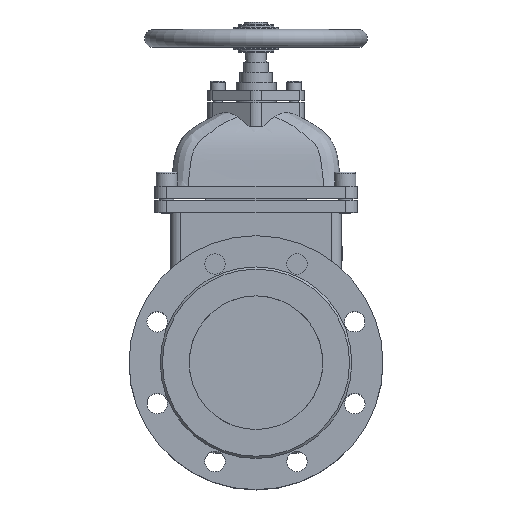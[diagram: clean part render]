
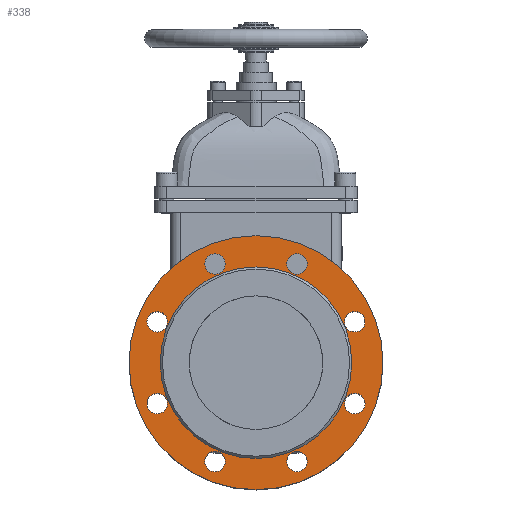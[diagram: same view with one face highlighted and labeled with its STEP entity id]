
A CAD part, top view. The second image highlights one B-rep face of the part: STEP entity #338.
In plain terms, the highlighted planar face has unit normal (0, 0, 1).
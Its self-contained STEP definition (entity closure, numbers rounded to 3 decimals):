
#338=ADVANCED_FACE('',(#3567,#3569,#3571,#3573,#3575,#3577,#3579,#3581,#3583,#3585),
#3587,.T.);
#3567=FACE_BOUND('',#3568,.T.);
#3568=EDGE_LOOP('',(#9762));
#3569=FACE_BOUND('',#3570,.T.);
#3570=EDGE_LOOP('',(#9763));
#3571=FACE_BOUND('',#3572,.T.);
#3572=EDGE_LOOP('',(#9764));
#3573=FACE_BOUND('',#3574,.T.);
#3574=EDGE_LOOP('',(#9765));
#3575=FACE_BOUND('',#3576,.T.);
#3576=EDGE_LOOP('',(#9766));
#3577=FACE_BOUND('',#3578,.T.);
#3578=EDGE_LOOP('',(#9767));
#3579=FACE_BOUND('',#3580,.T.);
#3580=EDGE_LOOP('',(#9768));
#3581=FACE_BOUND('',#3582,.T.);
#3582=EDGE_LOOP('',(#9769));
#3583=FACE_BOUND('',#3584,.T.);
#3584=EDGE_LOOP('',(#9770));
#3585=FACE_BOUND('',#3586,.T.);
#3586=EDGE_LOOP('',(#9771));
#3587=PLANE('',#3588);
#3588=AXIS2_PLACEMENT_3D('',#3589,#3590,#3591);
#3589=CARTESIAN_POINT('',(0.,0.,102.5));
#3590=DIRECTION('',(0.,0.,1.));
#3591=DIRECTION('',(0.,1.,0.));
#9762=ORIENTED_EDGE('',*,*,#11456,.F.);
#9763=ORIENTED_EDGE('',*,*,#11464,.T.);
#9764=ORIENTED_EDGE('',*,*,#11463,.T.);
#9765=ORIENTED_EDGE('',*,*,#11462,.T.);
#9766=ORIENTED_EDGE('',*,*,#11461,.T.);
#9767=ORIENTED_EDGE('',*,*,#11460,.T.);
#9768=ORIENTED_EDGE('',*,*,#11459,.T.);
#9769=ORIENTED_EDGE('',*,*,#11458,.T.);
#9770=ORIENTED_EDGE('',*,*,#11485,.T.);
#9771=ORIENTED_EDGE('',*,*,#11457,.T.);
#11456=EDGE_CURVE('',#12299,#12299,#12300,.T.);
#11457=EDGE_CURVE('',#12301,#12301,#12302,.F.);
#11458=EDGE_CURVE('',#12303,#12303,#12304,.F.);
#11459=EDGE_CURVE('',#12305,#12305,#12306,.F.);
#11460=EDGE_CURVE('',#12307,#12307,#12308,.F.);
#11461=EDGE_CURVE('',#12309,#12309,#12310,.F.);
#11462=EDGE_CURVE('',#12311,#12311,#12312,.F.);
#11463=EDGE_CURVE('',#12313,#12313,#12314,.F.);
#11464=EDGE_CURVE('',#12315,#12315,#12316,.F.);
#11485=EDGE_CURVE('',#12351,#12351,#12352,.T.);
#12299=VERTEX_POINT('',#13755);
#12300=CIRCLE('',#13756,142.5);
#12301=VERTEX_POINT('',#13760);
#12302=CIRCLE('',#13761,11.5);
#12303=VERTEX_POINT('',#13765);
#12304=CIRCLE('',#13766,11.5);
#12305=VERTEX_POINT('',#13770);
#12306=CIRCLE('',#13771,11.5);
#12307=VERTEX_POINT('',#13775);
#12308=CIRCLE('',#13776,11.5);
#12309=VERTEX_POINT('',#13780);
#12310=CIRCLE('',#13781,11.5);
#12311=VERTEX_POINT('',#13785);
#12312=CIRCLE('',#13786,11.5);
#12313=VERTEX_POINT('',#13790);
#12314=CIRCLE('',#13791,11.5);
#12315=VERTEX_POINT('',#13795);
#12316=CIRCLE('',#13796,11.5);
#12351=VERTEX_POINT('',#13888);
#12352=CIRCLE('',#13889,107.5);
#13755=CARTESIAN_POINT('',(0.,142.5,102.5));
#13756=AXIS2_PLACEMENT_3D('',#13757,#13758,#13759);
#13757=CARTESIAN_POINT('',(0.,0.,102.5));
#13758=DIRECTION('',(0.,0.,-1.));
#13759=DIRECTION('',(0.,1.,0.));
#13760=CARTESIAN_POINT('',(57.422,110.866,102.5));
#13761=AXIS2_PLACEMENT_3D('',#13762,#13763,#13764);
#13762=CARTESIAN_POINT('',(45.922,110.866,102.5));
#13763=DIRECTION('',(0.,0.,1.));
#13764=DIRECTION('',(1.,0.,0.));
#13765=CARTESIAN_POINT('',(-37.79,118.997,102.5));
#13766=AXIS2_PLACEMENT_3D('',#13767,#13768,#13769);
#13767=CARTESIAN_POINT('',(-45.922,110.866,102.5));
#13768=DIRECTION('',(0.,0.,1.));
#13769=DIRECTION('',(0.707,0.707,0.));
#13770=CARTESIAN_POINT('',(-110.866,57.422,102.5));
#13771=AXIS2_PLACEMENT_3D('',#13772,#13773,#13774);
#13772=CARTESIAN_POINT('',(-110.866,45.922,102.5));
#13773=DIRECTION('',(0.,0.,1.));
#13774=DIRECTION('',(0.,1.,0.));
#13775=CARTESIAN_POINT('',(-118.997,-37.79,102.5));
#13776=AXIS2_PLACEMENT_3D('',#13777,#13778,#13779);
#13777=CARTESIAN_POINT('',(-110.866,-45.922,102.5));
#13778=DIRECTION('',(0.,0.,1.));
#13779=DIRECTION('',(-0.707,0.707,0.));
#13780=CARTESIAN_POINT('',(-57.422,-110.866,102.5));
#13781=AXIS2_PLACEMENT_3D('',#13782,#13783,#13784);
#13782=CARTESIAN_POINT('',(-45.922,-110.866,102.5));
#13783=DIRECTION('',(0.,0.,1.));
#13784=DIRECTION('',(-1.,0.,0.));
#13785=CARTESIAN_POINT('',(37.79,-118.997,102.5));
#13786=AXIS2_PLACEMENT_3D('',#13787,#13788,#13789);
#13787=CARTESIAN_POINT('',(45.922,-110.866,102.5));
#13788=DIRECTION('',(0.,0.,1.));
#13789=DIRECTION('',(-0.707,-0.707,0.));
#13790=CARTESIAN_POINT('',(110.866,-57.422,102.5));
#13791=AXIS2_PLACEMENT_3D('',#13792,#13793,#13794);
#13792=CARTESIAN_POINT('',(110.866,-45.922,102.5));
#13793=DIRECTION('',(0.,0.,1.));
#13794=DIRECTION('',(0.,-1.,0.));
#13795=CARTESIAN_POINT('',(118.997,37.79,102.5));
#13796=AXIS2_PLACEMENT_3D('',#13797,#13798,#13799);
#13797=CARTESIAN_POINT('',(110.866,45.922,102.5));
#13798=DIRECTION('',(0.,0.,1.));
#13799=DIRECTION('',(0.707,-0.707,0.));
#13888=CARTESIAN_POINT('',(0.,107.5,102.5));
#13889=AXIS2_PLACEMENT_3D('',#13890,#13891,#13892);
#13890=CARTESIAN_POINT('',(0.,0.,102.5));
#13891=DIRECTION('',(0.,0.,-1.));
#13892=DIRECTION('',(0.,1.,0.));
